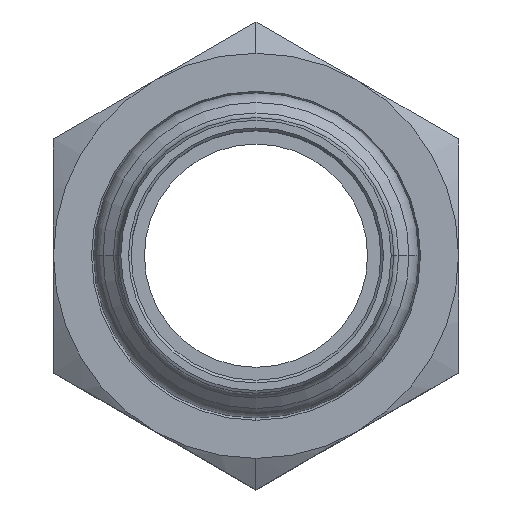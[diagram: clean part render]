
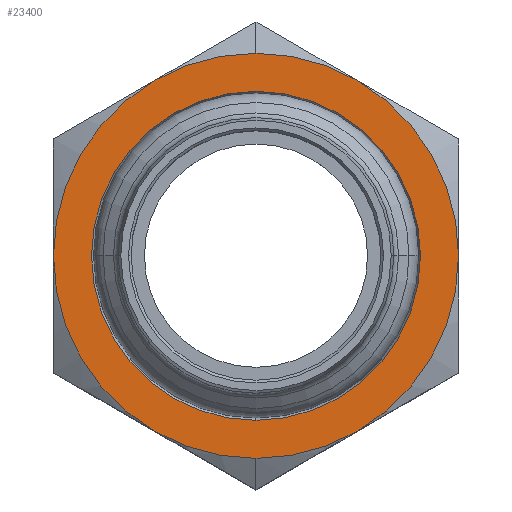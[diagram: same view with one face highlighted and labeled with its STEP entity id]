
A CAD part, top view. The second image highlights one B-rep face of the part: STEP entity #23400.
In plain terms, the highlighted planar face has unit normal (0, 0, 1) as drawn and (1, 0, 0) by its records, which use the part's own axes.
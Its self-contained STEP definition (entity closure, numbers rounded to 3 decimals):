
#20690=CARTESIAN_POINT('',(212.548,124.089,11.5));
#20700=VERTEX_POINT('',#20690);
#22020=CARTESIAN_POINT('',(212.548,81.171,
0.));
#22030=VERTEX_POINT('',#22020);
#22790=CARTESIAN_POINT('',(212.548,84.252,11.5));
#22800=VERTEX_POINT('',#22790);
#22830=CARTESIAN_POINT('',(212.548,104.171,0.));
#22840=DIRECTION('',(-1.,0.,0.));
#22850=DIRECTION('',(0.,-1.,0.));
#22860=AXIS2_PLACEMENT_3D('',#22830,#22840,#22850);
#22870=CIRCLE('',#22860,23.);
#22880=EDGE_CURVE('',#22030,#22800,#22870,.T.);
#22930=CARTESIAN_POINT('',(212.548,92.671,0.));
#22940=DIRECTION('',(-1.,0.,0.));
#22950=DIRECTION('',(0.,1.,0.));
#22960=AXIS2_PLACEMENT_3D('',#22930,#22940,#22950);
#22970=PLANE('',#22960);
#22980=CARTESIAN_POINT('',(212.548,104.171,23.));
#22990=VERTEX_POINT('',#22980);
#23000=EDGE_CURVE('',#22800,#22990,#22870,.T.);
#23010=ORIENTED_EDGE('',*,*,#23000,.F.);
#23020=EDGE_CURVE('',#22990,#20700,#22870,.T.);
#23030=ORIENTED_EDGE('',*,*,#23020,.F.);
#23040=CARTESIAN_POINT('',(212.548,127.171,0.));
#23050=VERTEX_POINT('',#23040);
#23060=EDGE_CURVE('',#20700,#23050,#22870,.T.);
#23070=ORIENTED_EDGE('',*,*,#23060,.F.);
#23080=CARTESIAN_POINT('',(212.548,124.089,-11.5));
#23090=VERTEX_POINT('',#23080);
#23100=EDGE_CURVE('',#23050,#23090,#22870,.T.);
#23110=ORIENTED_EDGE('',*,*,#23100,.F.);
#23120=CARTESIAN_POINT('',(212.548,104.171,-23.));
#23130=VERTEX_POINT('',#23120);
#23140=EDGE_CURVE('',#23090,#23130,#22870,.T.);
#23150=ORIENTED_EDGE('',*,*,#23140,.F.);
#23160=CARTESIAN_POINT('',(212.548,84.252,-11.5));
#23170=VERTEX_POINT('',#23160);
#23180=EDGE_CURVE('',#23130,#23170,#22870,.T.);
#23190=ORIENTED_EDGE('',*,*,#23180,.F.);
#23200=EDGE_CURVE('',#23170,#22030,#22870,.T.);
#23210=ORIENTED_EDGE('',*,*,#23200,.F.);
#23220=ORIENTED_EDGE('',*,*,#22880,.F.);
#23230=EDGE_LOOP('',(#23220,#23210,#23190,#23150,#23110,#23070,#23030,
#23010));
#23240=FACE_OUTER_BOUND('',#23230,.T.);
#23250=CARTESIAN_POINT('',(212.548,104.171,0.));
#23260=DIRECTION('',(1.,0.,0.));
#23270=DIRECTION('',(0.,-1.,0.));
#23280=AXIS2_PLACEMENT_3D('',#23250,#23260,#23270);
#23290=CIRCLE('',#23280,18.677);
#23300=CARTESIAN_POINT('',(212.548,85.493,
0.));
#23310=VERTEX_POINT('',#23300);
#23320=CARTESIAN_POINT('',(212.548,122.848,0.));
#23330=VERTEX_POINT('',#23320);
#23340=EDGE_CURVE('',#23310,#23330,#23290,.T.);
#23350=ORIENTED_EDGE('',*,*,#23340,.F.);
#23360=EDGE_CURVE('',#23330,#23310,#23290,.T.);
#23370=ORIENTED_EDGE('',*,*,#23360,.F.);
#23380=EDGE_LOOP('',(#23370,#23350));
#23390=FACE_BOUND('',#23380,.T.);
#23400=ADVANCED_FACE('',(#23240,#23390),#22970,.F.);
